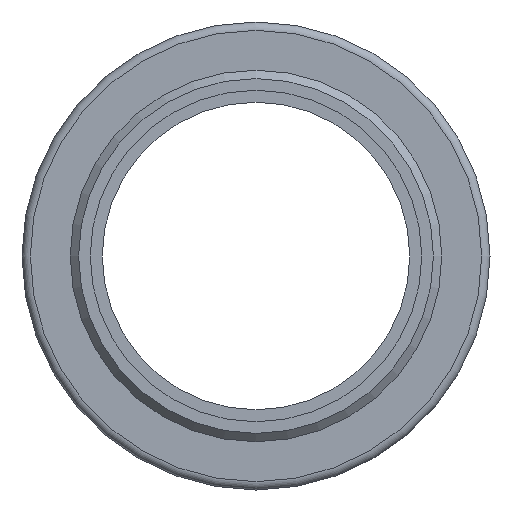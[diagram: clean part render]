
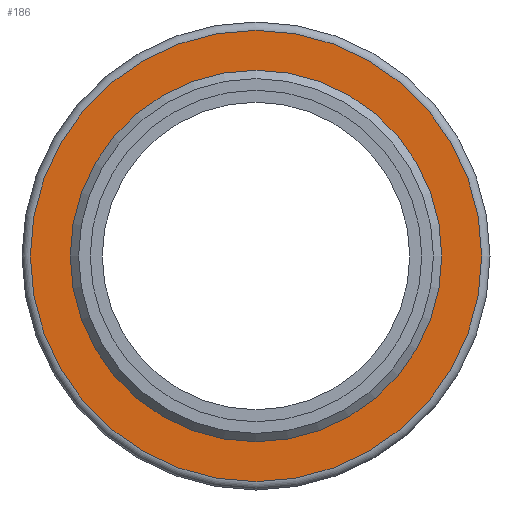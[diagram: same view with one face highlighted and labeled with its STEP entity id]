
A CAD part, front view. The second image highlights one B-rep face of the part: STEP entity #186.
In plain terms, the highlighted planar face has unit normal (0, -1, 0).
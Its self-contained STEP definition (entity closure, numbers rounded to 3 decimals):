
#34=PLANE('',#236);
#55=ORIENTED_EDGE('',*,*,#81,.T.);
#56=ORIENTED_EDGE('',*,*,#80,.F.);
#80=EDGE_CURVE('',#95,#95,#110,.T.);
#81=EDGE_CURVE('',#96,#96,#111,.T.);
#95=VERTEX_POINT('',#342);
#96=VERTEX_POINT('',#345);
#110=CIRCLE('',#235,44.45);
#111=CIRCLE('',#237,54.);
#130=EDGE_LOOP('',(#55));
#131=EDGE_LOOP('',(#56));
#160=FACE_BOUND('',#130,.T.);
#161=FACE_BOUND('',#131,.T.);
#186=ADVANCED_FACE('',(#160,#161),#34,.T.);
#235=AXIS2_PLACEMENT_3D('',#341,#282,#283);
#236=AXIS2_PLACEMENT_3D('',#343,#284,#285);
#237=AXIS2_PLACEMENT_3D('',#344,#286,#287);
#282=DIRECTION('',(0.,-1.,0.));
#283=DIRECTION('',(0.,0.,-1.));
#284=DIRECTION('',(0.,-1.,0.));
#285=DIRECTION('',(0.,0.,-1.));
#286=DIRECTION('',(0.,-1.,0.));
#287=DIRECTION('',(0.,0.,-1.));
#341=CARTESIAN_POINT('',(0.,0.,0.));
#342=CARTESIAN_POINT('',(0.,0.,-44.45));
#343=CARTESIAN_POINT('',(0.,0.,44.45));
#344=CARTESIAN_POINT('',(0.,0.,0.));
#345=CARTESIAN_POINT('',(0.,0.,-54.));
